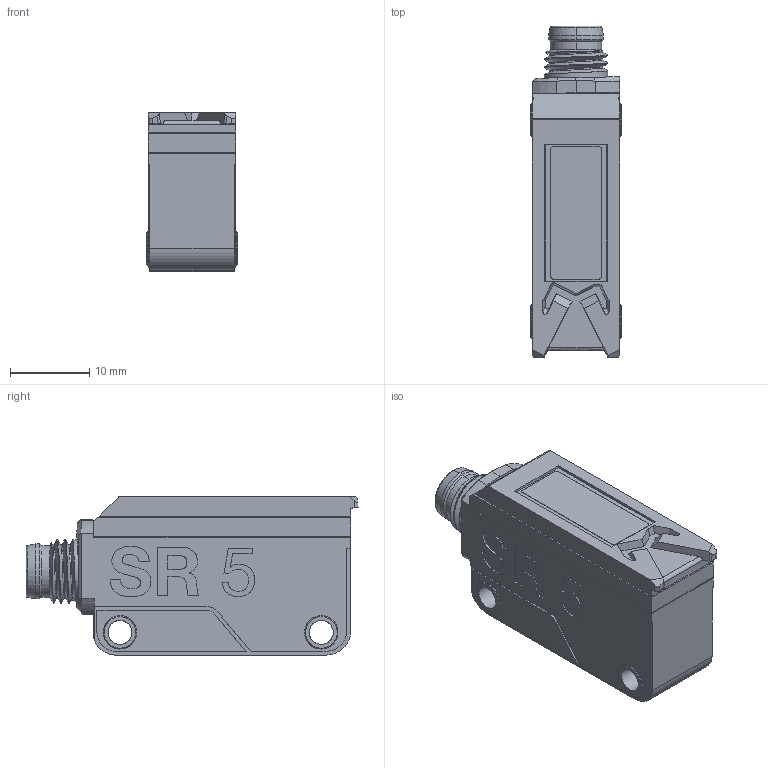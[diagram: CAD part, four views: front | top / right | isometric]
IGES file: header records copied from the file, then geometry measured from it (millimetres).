
Global section: file name: H:\lem\3DCAD_BR5B_M8.igs; native system: NX V11.0; preprocessor: SIEMENS PLM Software NX 11.0; date: 20210827.084316; units: millimetre
Bounding box: 11.4 x 41.88 x 20.02 mm (x, y, z)
Surface area: 3272.7 mm2 (no closed solid volume)
Topology: 0 solids, 0 shells, 313 faces, 1890 edges, 1889 vertices
Faces by surface type: bspline 313
